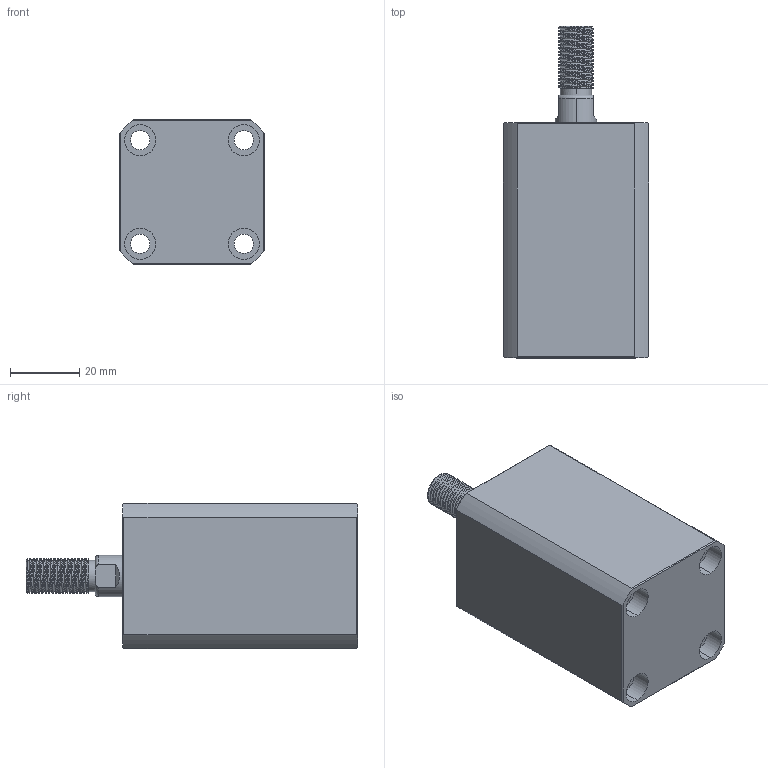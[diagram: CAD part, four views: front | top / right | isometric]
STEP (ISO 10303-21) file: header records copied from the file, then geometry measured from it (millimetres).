
FILE_DESCRIPTION (( 'STEP AP214' ), '1' );
FILE_NAME ('chtb-sdma20x25w_asm.STEP', '2018-05-18T04:16:21', ( 'Windows' ), ( 'Microsoft' ), 'SwSTEP 2.0', 'SolidWorks 2015', '' );
FILE_SCHEMA (( 'AUTOMOTIVE_DESIGN' ));
Length unit declared in the file: millimetre
Products named in the file (4): CHTB-SDMA20X25WHSG; QG_3; CHTB-SDMA20X25NBT; chtb-sdma20x25w_asm
Assembly tree (3 placements, depth 2):
  chtb-sdma20x25w_asm
    CHTB-SDMA20X25NBT
    QG_3
    CHTB-SDMA20X25WHSG
Bounding box: 42 x 96 x 42 mm (x, y, z)
Volume: 104721 mm3; surface area: 33599.5 mm2
Topology: 3 solids, 3 shells, 247 faces, 671 edges, 446 vertices
Faces by surface type: cylinder 144, plane 48, torus 25, bspline 23, cone 7
Entity records: 14895 total; most frequent: CARTESIAN_POINT 9018, ORIENTED_EDGE 1334, DIRECTION 1075, EDGE_CURVE 667, VERTEX_POINT 446, AXIS2_PLACEMENT_3D 441, EDGE_LOOP 285, FACE_OUTER_BOUND 247
